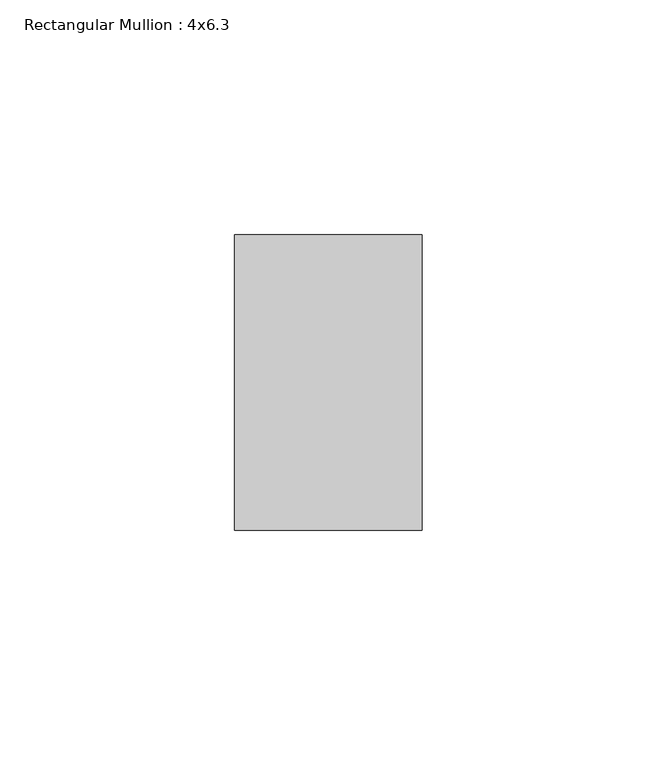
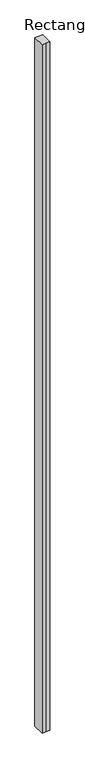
"""IFC4 building model written with IfcOpenShell, lengths in millimetres: member geometry, Rectangular Mullion : 4x6.3."""

import ifcopenshell
import ifcopenshell.guid

model = None  # the IFC model being written
_history = None  # IfcOwnerHistory: only IFC2X3 demands one
_inside = {}  # id of a spatial element -> (the spatial element, [elements in it])
_under = {}  # id of a project, library or spatial element -> (it, [spatial elements below it])
_declared = {}  # id of a project -> (the project, [libraries it declares])
_typed = {}  # id of a type object -> (the type object, [elements of that type])
_made_of = {}  # id of a material, layer set ... -> (it, [elements and type objects made of it])


def new_model(schema):
    """Start an empty IFC model of exactly this schema.

    Asked for "IFC4X3", IfcOpenShell would pick the latest addendum, in which some entities
    have other attributes; the version numbers below select the first issue.
    IFC2X3 requires an IfcOwnerHistory on every rooted entity: one is made here for all.
    """
    global model, _history
    if schema == "IFC4X3":
        model = ifcopenshell.file(schema_version=(4, 3, 0, 0))
    else:
        model = ifcopenshell.file(schema=schema)
    _inside.clear()
    _under.clear()
    _declared.clear()
    _typed.clear()
    _made_of.clear()
    _history = None
    if model.schema == "IFC2X3":
        org = make("IfcOrganization", Name="unknown")
        user = make(
            "IfcPersonAndOrganization",
            ThePerson=make("IfcPerson", FamilyName="unknown"),
            TheOrganization=org,
        )
        app = make(
            "IfcApplication",
            ApplicationDeveloper=org,
            Version="unknown",
            ApplicationFullName="unknown",
            ApplicationIdentifier="unknown",
        )
        _history = make(
            "IfcOwnerHistory",
            OwningUser=user,
            OwningApplication=app,
            ChangeAction="ADDED",
            CreationDate=0,
        )
    return model


def make(cls, **values):
    """One entity of the class cls with the attributes given. An attribute that is None is left unset."""
    return model.create_entity(
        cls, **{name: value for name, value in values.items() if value is not None}
    )


def rooted(cls, **values):
    """An entity with a GlobalId (a new one), such as an element, a storey or a relation."""
    return make(cls, GlobalId=ifcopenshell.guid.new(), OwnerHistory=_history, **values)


def si_unit(unit_type, name, prefix=None):
    """IfcSIUnit, for example si_unit("LENGTHUNIT", "METRE", prefix="MILLI")."""
    return make("IfcSIUnit", UnitType=unit_type, Prefix=prefix, Name=name)


def assignment(units):
    """IfcUnitAssignment: the units of a project."""
    return None if units is None else make("IfcUnitAssignment", Units=units)


def point(xyz):
    """IfcCartesianPoint."""
    return None if xyz is None else make("IfcCartesianPoint", Coordinates=xyz)


def direction(xyz):
    """IfcDirection."""
    return None if xyz is None else make("IfcDirection", DirectionRatios=xyz)


def frame(location, z_axis=None, x_axis=None):
    """IfcAxis2Placement3D, a coordinate frame: its origin and axes. An axis left out is left unset."""
    return make(
        "IfcAxis2Placement3D",
        Location=point(location),
        Axis=direction(z_axis),
        RefDirection=direction(x_axis),
    )


def origin():
    """The frame at (0, 0, 0) with its axes left unset."""
    return frame((0.0, 0.0, 0.0))


def place(relative_to, where):
    """IfcLocalPlacement: puts the frame where relative to a parent placement (None: the world)."""
    return make(
        "IfcLocalPlacement", PlacementRelTo=relative_to, RelativePlacement=where
    )


def context(
    kind, dimensions, precision=None, world=None, true_north=None, identifier=None
):
    """IfcGeometricRepresentationContext, for example the 3D "Model" context."""
    return make(
        "IfcGeometricRepresentationContext",
        ContextIdentifier=identifier,
        ContextType=kind,
        CoordinateSpaceDimension=dimensions,
        Precision=precision,
        WorldCoordinateSystem=world,
        TrueNorth=true_north,
    )


def project(units=None, contexts=None):
    """IfcProject with its units and contexts."""
    return rooted(
        "IfcProject",
        Name="project",
        RepresentationContexts=contexts,
        UnitsInContext=assignment(units),
    )


def spatial(cls, under=None, at=None, **own):
    """A site, building, storey or space (cls), placed at a placement, below another one or the project."""
    s = rooted(cls, ObjectPlacement=at, **own)
    if under is not None:
        _under.setdefault(under.id(), (under, []))[1].append(s)
    return s


def polyline(points):
    """IfcPolyline through the points."""
    return make("IfcPolyline", Points=[point(p) for p in points])


def outline(outer, holes=None, kind="AREA"):
    """IfcArbitraryClosedProfileDef: a profile drawn as a closed curve; with holes, ...WithVoids."""
    if holes is None:
        return make("IfcArbitraryClosedProfileDef", ProfileType=kind, OuterCurve=outer)
    return make(
        "IfcArbitraryProfileDefWithVoids",
        ProfileType=kind,
        OuterCurve=outer,
        InnerCurves=holes,
    )


def extrude(swept, where, along, depth):
    """IfcExtrudedAreaSolid: the profile swept, set in the frame where, extruded along a direction by depth."""
    return make(
        "IfcExtrudedAreaSolid",
        SweptArea=swept,
        Position=where,
        ExtrudedDirection=direction(along),
        Depth=depth,
    )


def shape(context_of_items, identifier, shape_type, items):
    """IfcShapeRepresentation: the items that make up one representation, for example the "Body"."""
    return make(
        "IfcShapeRepresentation",
        ContextOfItems=context_of_items,
        RepresentationIdentifier=identifier,
        RepresentationType=shape_type,
        Items=items,
    )


def source(mapping_origin, context_of_items, identifier, shape_type, items):
    """IfcRepresentationMap: a shape defined once, which mapped items show again and again."""
    return make(
        "IfcRepresentationMap",
        MappingOrigin=mapping_origin,
        MappedRepresentation=shape(context_of_items, identifier, shape_type, items),
    )


def transform(
    local_origin,
    x_axis=None,
    y_axis=None,
    z_axis=None,
    scale=None,
    scale2=None,
    scale3=None,
    uniform=True,
):
    """IfcCartesianTransformationOperator3D, or its non-uniform kind. x_axis, y_axis, z_axis: its Axis1, 2, 3."""
    if uniform:
        return make(
            "IfcCartesianTransformationOperator3D",
            Axis1=direction(x_axis),
            Axis2=direction(y_axis),
            LocalOrigin=point(local_origin),
            Scale=scale,
            Axis3=direction(z_axis),
        )
    return make(
        "IfcCartesianTransformationOperator3DnonUniform",
        Axis1=direction(x_axis),
        Axis2=direction(y_axis),
        LocalOrigin=point(local_origin),
        Scale=scale,
        Axis3=direction(z_axis),
        Scale2=scale2,
        Scale3=scale3,
    )


def mapped(mapping_source, mapping_target):
    """IfcMappedItem: shows the shape of a source again, moved by a transform."""
    return make(
        "IfcMappedItem", MappingSource=mapping_source, MappingTarget=mapping_target
    )


def made_of(thing, what):
    """Note that an element or type object is made of a material, layer set ...; save() writes the relation."""
    if what is not None:
        _made_of.setdefault(what.id(), (what, []))[1].append(thing)
    return thing


def element(
    cls,
    number,
    at=None,
    inside=None,
    cuts=None,
    type_object=None,
    material=None,
    context=None,
    identifier="Body",
    shape_type=None,
    held_by="IfcProductDefinitionShape",
    body=None,
    shapes=None,
    **own,
):
    """One element of the class cls, such as IfcWall. Its Tag is "e" and its number.

    at: its placement. inside: the storey or other place that contains it. cuts: it is an
    opening in that element (IfcRelVoidsElement). A single representation is given by context,
    identifier, shape_type and body (its items); several are given by shapes. held_by: the class
    of the entity that holds the representations. save() writes the other relations.
    """
    e = rooted(cls, Tag="e%d" % number, ObjectPlacement=at, **own)
    if body is not None:
        shapes = [shape(context, identifier, shape_type, body)]
    if shapes is not None:
        e.Representation = make(held_by, Representations=shapes)
    if inside is not None:
        _inside.setdefault(inside.id(), (inside, []))[1].append(e)
    if cuts is not None:
        rooted(
            "IfcRelVoidsElement", RelatingBuildingElement=cuts, RelatedOpeningElement=e
        )
    if type_object is not None:
        _typed.setdefault(type_object.id(), (type_object, []))[1].append(e)
    return made_of(e, material)


def aggregate(whole, parts):
    """IfcRelAggregates: a whole, such as a stair, and the parts it consists of."""
    return rooted("IfcRelAggregates", RelatingObject=whole, RelatedObjects=parts)


def save(model, path):
    """Write the relations noted so far, then the file.

    IfcRelAggregates (storeys below a building ...), IfcRelContainedInSpatialStructure (elements
    in a storey), IfcRelDefinesByType, IfcRelAssociatesMaterial and IfcRelDeclares: one each for
    every whole, place, type object, material and project.
    """
    for whole, parts in _under.values():
        aggregate(whole, parts)
    for where, things in _inside.values():
        rooted(
            "IfcRelContainedInSpatialStructure",
            RelatedElements=things,
            RelatingStructure=where,
        )
    for kind, things in _typed.values():
        rooted("IfcRelDefinesByType", RelatedObjects=things, RelatingType=kind)
    for what, things in _made_of.values():
        rooted("IfcRelAssociatesMaterial", RelatedObjects=things, RelatingMaterial=what)
    for by, libraries in _declared.values():
        rooted("IfcRelDeclares", RelatingContext=by, RelatedDefinitions=libraries)
    model.write(path)


def rectangular_mullion_4x6_3_0ee8edef(model_context):
    return source(origin(), model_context, "Body", "SweptSolid", [
        extrude(outline(polyline([(-20.0, 20.0), (-20.0, 83.0), (20.0, 83.0), (20.0, 20.0), (0.0, 20.0), (-20.0, 20.0)])), frame((0.0, 0.0, -3717.5703176), z_axis=(0.0, 0.0, 1.0), x_axis=(1.0, 0.0, 0.0)), (0.0, 0.0, 1.0), 3717.5703176),
    ])


if __name__ == "__main__":
    model = new_model("IFC4")
    model_context = context("Model", 3, world=origin())
    ifc_project = project(units=[si_unit("LENGTHUNIT", "METRE", prefix="MILLI")], contexts=[model_context])
    site = spatial("IfcSite", under=ifc_project)
    building = spatial("IfcBuilding", under=site)
    placement = place(None, origin())
    rectangular_mullion_4x6_3_shape = rectangular_mullion_4x6_3_0ee8edef(model_context)
    element("IfcMember", 1, ObjectType="Rectangular Mullion : 4x6.3", at=placement, inside=building, context=model_context, shape_type="MappedRepresentation", body=[
        mapped(rectangular_mullion_4x6_3_shape, transform((0.0, 0.0, 0.0), x_axis=(1.0, 0.0, 0.0), y_axis=(0.0, 1.0, 0.0), z_axis=(0.0, 0.0, 1.0))),
    ])
    save(model, "model.ifc")
